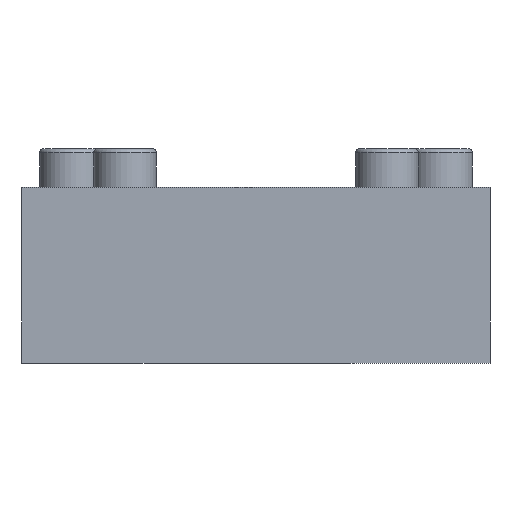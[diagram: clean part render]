
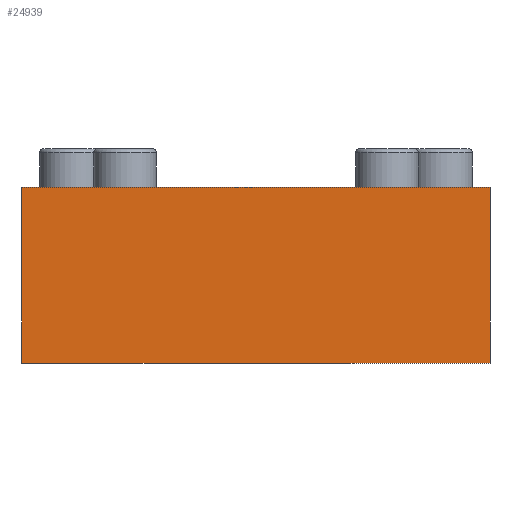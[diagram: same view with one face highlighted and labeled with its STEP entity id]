
A CAD part, front view. The second image highlights one B-rep face of the part: STEP entity #24939.
In plain terms, the highlighted planar face has unit normal (0, -1, 0).
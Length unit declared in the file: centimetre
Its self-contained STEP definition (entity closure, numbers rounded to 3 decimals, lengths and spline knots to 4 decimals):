
#1402=FACE_OUTER_BOUND('',#2812,.T.);
#2812=EDGE_LOOP('',(#16658,#16659,#16660,#16661));
#4171=LINE('',#31943,#6899);
#4890=LINE('',#35073,#7618);
#4893=LINE('',#35079,#7621);
#4894=LINE('',#35080,#7622);
#6899=VECTOR('',#27244,12.);
#7618=VECTOR('',#27999,4.506);
#7621=VECTOR('',#28004,4.506);
#7622=VECTOR('',#28005,12.);
#9627=VERTEX_POINT('',#31940);
#9628=VERTEX_POINT('',#31942);
#10693=VERTEX_POINT('',#35072);
#10695=VERTEX_POINT('',#35078);
#12017=EDGE_CURVE('',#9627,#9628,#4171,.T.);
#13083=EDGE_CURVE('',#10693,#9627,#4890,.T.);
#13086=EDGE_CURVE('',#10695,#9628,#4893,.T.);
#13087=EDGE_CURVE('',#10695,#10693,#4894,.T.);
#16658=ORIENTED_EDGE('',*,*,#13086,.T.);
#16659=ORIENTED_EDGE('',*,*,#12017,.F.);
#16660=ORIENTED_EDGE('',*,*,#13083,.F.);
#16661=ORIENTED_EDGE('',*,*,#13087,.F.);
#22729=PLANE('',#26274);
#24939=ADVANCED_FACE('',(#1402),#22729,.T.);
#26274=AXIS2_PLACEMENT_3D('',#35077,#28002,#28003);
#27244=DIRECTION('',(1.,0.,0.));
#27999=DIRECTION('',(0.,0.,1.));
#28002=DIRECTION('center_axis',(0.,-1.,0.));
#28003=DIRECTION('ref_axis',(-1.,0.,0.));
#28004=DIRECTION('',(0.,0.,1.));
#28005=DIRECTION('',(-1.,0.,0.));
#31940=CARTESIAN_POINT('',(-6.,-17.,4.506));
#31942=CARTESIAN_POINT('',(6.,-17.,4.506));
#31943=CARTESIAN_POINT('',(-6.,-17.,4.506));
#35072=CARTESIAN_POINT('',(-6.,-17.,0.));
#35073=CARTESIAN_POINT('',(-6.,-17.,0.));
#35077=CARTESIAN_POINT('Origin',(6.,-17.,4.506));
#35078=CARTESIAN_POINT('',(6.,-17.,0.));
#35079=CARTESIAN_POINT('',(6.,-17.,0.));
#35080=CARTESIAN_POINT('',(6.,-17.,0.));
